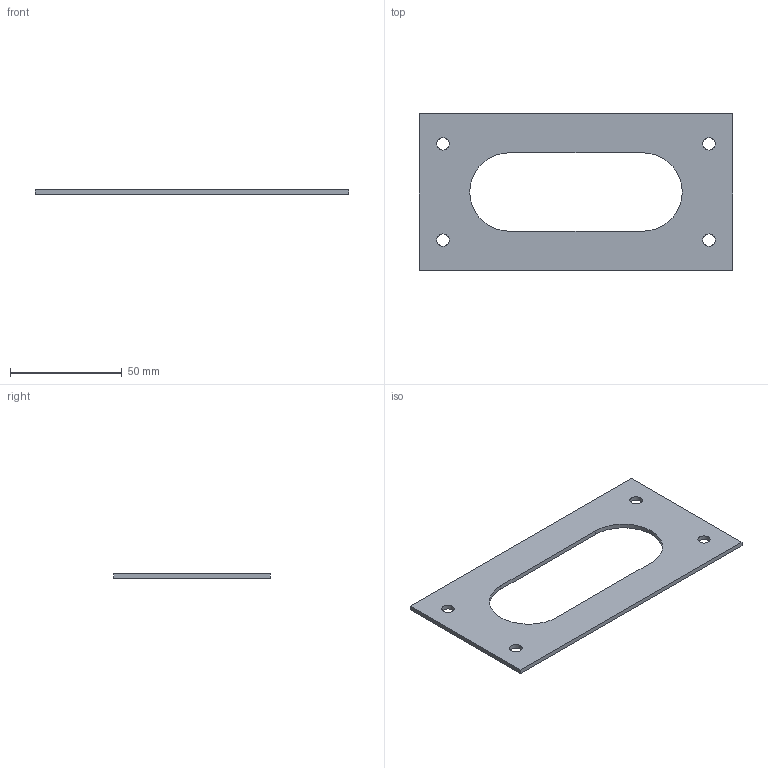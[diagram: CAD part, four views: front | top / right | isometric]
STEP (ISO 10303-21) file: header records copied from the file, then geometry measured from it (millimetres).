
FILE_DESCRIPTION(('STEP AP214'),'1');
FILE_NAME('SCG2 cut-out Rev A.step','2021-06-09T19:15:12',(' '),(' '),'Spatial InterOp 3D',' ',' ');
FILE_SCHEMA(('AUTOMOTIVE_DESIGN { 1 0 10303 214 1 1 1 1 }'));
Length unit declared in the file: millimetre
Products named in the file (1): SCG2 cut_out
Bounding box: 140 x 70 x 2 mm (x, y, z)
Volume: 13285.7 mm3; surface area: 14723.8 mm2
Topology: 1 solids, 1 shells, 16 faces, 44 edges, 30 vertices
Faces by surface type: plane 8, cylinder 8
Full cylindrical faces by diameter (mm): 5.5 x4
Entity records: 646 total; most frequent: DIRECTION 88, CARTESIAN_POINT 83, ORIENTED_EDGE 76, EDGE_CURVE 38, AXIS2_PLACEMENT_3D 33, EDGE_LOOP 30, VERTEX_POINT 28, LINE 22
